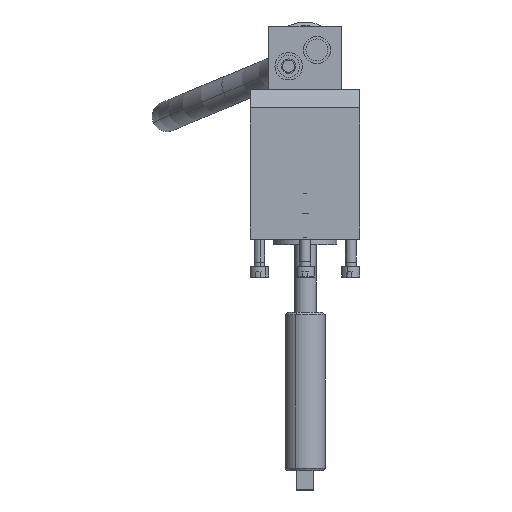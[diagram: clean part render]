
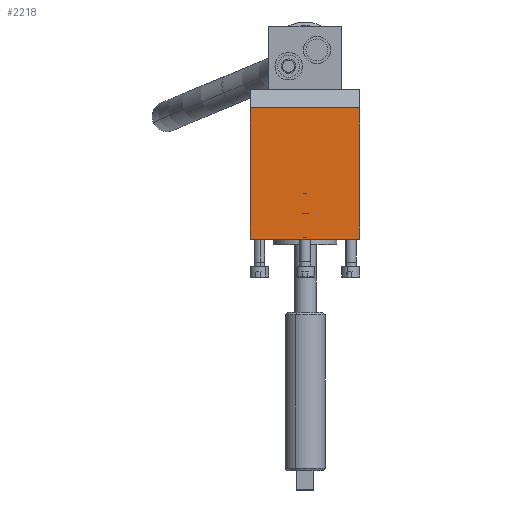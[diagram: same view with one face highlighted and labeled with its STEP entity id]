
A CAD part, top view. The second image highlights one B-rep face of the part: STEP entity #2218.
In plain terms, the highlighted planar face has unit normal (0, 0, 1).
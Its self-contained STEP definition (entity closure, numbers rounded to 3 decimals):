
#2150=CARTESIAN_POINT('Vertex',(-30.,20.,349.12)) ;
#2153=CARTESIAN_POINT('Line Origine',(0.,20.,349.12)) ;
#2157=CARTESIAN_POINT('Vertex',(30.,20.,349.12)) ;
#2172=CARTESIAN_POINT('Axis2P3D Location',(30.,-37.,349.12)) ;
#2177=CARTESIAN_POINT('Line Origine',(30.,-44.5,349.12)) ;
#2181=CARTESIAN_POINT('Vertex',(30.,-37.,349.12)) ;
#2183=CARTESIAN_POINT('Vertex',(30.,-52.,349.12)) ;
#2186=CARTESIAN_POINT('Line Origine',(30.,-8.5,349.12)) ;
#2191=CARTESIAN_POINT('Line Origine',(-30.,-8.5,349.12)) ;
#2195=CARTESIAN_POINT('Vertex',(-30.,-37.,349.12)) ;
#2198=CARTESIAN_POINT('Line Origine',(-30.,-44.5,349.12)) ;
#2202=CARTESIAN_POINT('Vertex',(-30.,-52.,349.12)) ;
#2205=CARTESIAN_POINT('Line Origine',(0.,-52.,349.12)) ;
#2154=DIRECTION('Vector Direction',(-1.,0.,0.)) ;
#2173=DIRECTION('Axis2P3D Direction',(0.,0.,-1.)) ;
#2174=DIRECTION('Axis2P3D XDirection',(-1.,0.,0.)) ;
#2178=DIRECTION('Vector Direction',(0.,-1.,0.)) ;
#2187=DIRECTION('Vector Direction',(0.,1.,0.)) ;
#2192=DIRECTION('Vector Direction',(0.,1.,0.)) ;
#2199=DIRECTION('Vector Direction',(0.,-1.,0.)) ;
#2206=DIRECTION('Vector Direction',(1.,0.,0.)) ;
#2175=AXIS2_PLACEMENT_3D('Plane Axis2P3D',#2172,#2173,#2174) ;
#2211=ORIENTED_EDGE('',*,*,#2185,.F.) ;
#2212=ORIENTED_EDGE('',*,*,#2190,.T.) ;
#2213=ORIENTED_EDGE('',*,*,#2159,.T.) ;
#2214=ORIENTED_EDGE('',*,*,#2197,.F.) ;
#2215=ORIENTED_EDGE('',*,*,#2204,.T.) ;
#2216=ORIENTED_EDGE('',*,*,#2209,.F.) ;
#2155=VECTOR('Line Direction',#2154,1.) ;
#2179=VECTOR('Line Direction',#2178,1.) ;
#2188=VECTOR('Line Direction',#2187,1.) ;
#2193=VECTOR('Line Direction',#2192,1.) ;
#2200=VECTOR('Line Direction',#2199,1.) ;
#2207=VECTOR('Line Direction',#2206,1.) ;
#2218=ADVANCED_FACE('',(#2217),#2176,.F.) ;
#2159=EDGE_CURVE('',#2158,#2151,#2156,.T.) ;
#2185=EDGE_CURVE('',#2182,#2184,#2180,.T.) ;
#2190=EDGE_CURVE('',#2182,#2158,#2189,.T.) ;
#2197=EDGE_CURVE('',#2196,#2151,#2194,.T.) ;
#2204=EDGE_CURVE('',#2196,#2203,#2201,.T.) ;
#2209=EDGE_CURVE('',#2184,#2203,#2208,.F.) ;
#2210=EDGE_LOOP('',(#2211,#2212,#2213,#2214,#2215,#2216)) ;
#2217=FACE_OUTER_BOUND('',#2210,.T.) ;
#2156=LINE('Line',#2153,#2155) ;
#2180=LINE('Line',#2177,#2179) ;
#2189=LINE('Line',#2186,#2188) ;
#2194=LINE('Line',#2191,#2193) ;
#2201=LINE('Line',#2198,#2200) ;
#2208=LINE('Line',#2205,#2207) ;
#2176=PLANE('Plane',#2175) ;
#2151=VERTEX_POINT('',#2150) ;
#2158=VERTEX_POINT('',#2157) ;
#2182=VERTEX_POINT('',#2181) ;
#2184=VERTEX_POINT('',#2183) ;
#2196=VERTEX_POINT('',#2195) ;
#2203=VERTEX_POINT('',#2202) ;
